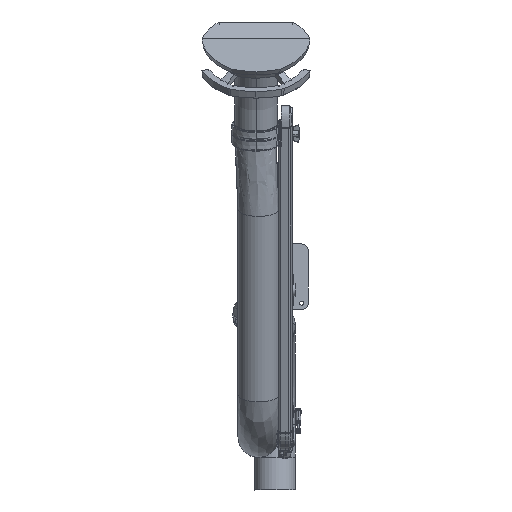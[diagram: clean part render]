
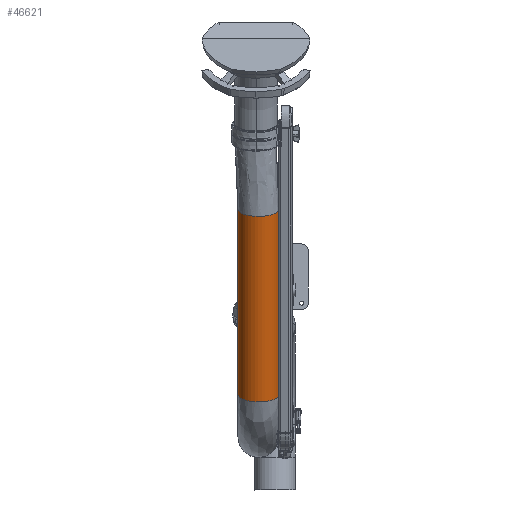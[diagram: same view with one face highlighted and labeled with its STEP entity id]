
A CAD part, front view. The second image highlights one B-rep face of the part: STEP entity #46621.
In plain terms, the highlighted free-form (B-spline) face has degree [3, 3] with [7, 6] control points.
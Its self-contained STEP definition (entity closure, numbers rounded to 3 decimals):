
#44864=CARTESIAN_POINT('',(-112.5,0.,-275.));
#44865=CARTESIAN_POINT('',(-112.5,0.,-341.667));
#44866=CARTESIAN_POINT('',(-112.5,0.,-475.));
#44867=CARTESIAN_POINT('',(-112.5,0.,-675.));
#44868=CARTESIAN_POINT('',(-112.5,0.,-808.333));
#44869=CARTESIAN_POINT('',(-112.5,0.,-875.));
#44874=CARTESIAN_POINT('',(-50.,0.,-275.));
#44875=DIRECTION('',(0.,0.,-1.));
#44876=DIRECTION('',(1.,0.,0.));
#44877=AXIS2_PLACEMENT_3D('',#44874,#44875,#44876);
#44882=CARTESIAN_POINT('',(12.5,0.,-275.));
#44883=CARTESIAN_POINT('',(12.5,0.,-341.667));
#44884=CARTESIAN_POINT('',(12.5,0.,-475.));
#44885=CARTESIAN_POINT('',(12.5,0.,-675.));
#44886=CARTESIAN_POINT('',(12.5,0.,-808.333));
#44887=CARTESIAN_POINT('',(12.5,0.,-875.));
#44892=CARTESIAN_POINT('',(-50.,0.,-875.));
#44893=DIRECTION('',(0.,0.,-1.));
#44894=DIRECTION('',(1.,0.,0.));
#44895=AXIS2_PLACEMENT_3D('',#44892,#44893,#44894);
#46258=CARTESIAN_POINT('',(12.5,0.,-275.));
#46259=CARTESIAN_POINT('',(-112.5,0.,-275.));
#46260=VERTEX_POINT('',#46258);
#46261=VERTEX_POINT('',#46259);
#46266=CARTESIAN_POINT('',(12.5,0.,-875.));
#46267=CARTESIAN_POINT('',(-112.5,0.,-875.));
#46268=VERTEX_POINT('',#46266);
#46269=VERTEX_POINT('',#46267);
#46571=CARTESIAN_POINT('',(12.377,3.924,-263.));
#46572=CARTESIAN_POINT('',(12.377,3.924,-267.));
#46573=CARTESIAN_POINT('',(12.377,3.924,-471.));
#46574=CARTESIAN_POINT('',(12.377,3.924,-679.));
#46575=CARTESIAN_POINT('',(12.377,3.924,-883.));
#46576=CARTESIAN_POINT('',(12.377,3.924,-887.));
#46577=CARTESIAN_POINT('',(14.792,-34.462,-263.));
#46578=CARTESIAN_POINT('',(14.792,-34.462,-267.));
#46579=CARTESIAN_POINT('',(14.792,-34.462,-471.));
#46580=CARTESIAN_POINT('',(14.792,-34.462,-679.));
#46581=CARTESIAN_POINT('',(14.792,-34.462,-883.));
#46582=CARTESIAN_POINT('',(14.792,-34.462,-887.));
#46583=CARTESIAN_POINT('',(-11.538,-62.5,-263.));
#46584=CARTESIAN_POINT('',(-11.538,-62.5,-267.));
#46585=CARTESIAN_POINT('',(-11.538,-62.5,-471.));
#46586=CARTESIAN_POINT('',(-11.538,-62.5,-679.));
#46587=CARTESIAN_POINT('',(-11.538,-62.5,-883.));
#46588=CARTESIAN_POINT('',(-11.538,-62.5,-887.));
#46589=CARTESIAN_POINT('',(-50.,-62.5,-263.));
#46590=CARTESIAN_POINT('',(-50.,-62.5,-267.));
#46591=CARTESIAN_POINT('',(-50.,-62.5,-471.));
#46592=CARTESIAN_POINT('',(-50.,-62.5,-679.));
#46593=CARTESIAN_POINT('',(-50.,-62.5,-883.));
#46594=CARTESIAN_POINT('',(-50.,-62.5,-887.));
#46595=CARTESIAN_POINT('',(-88.462,-62.5,-263.));
#46596=CARTESIAN_POINT('',(-88.462,-62.5,-267.));
#46597=CARTESIAN_POINT('',(-88.462,-62.5,-471.));
#46598=CARTESIAN_POINT('',(-88.462,-62.5,-679.));
#46599=CARTESIAN_POINT('',(-88.462,-62.5,-883.));
#46600=CARTESIAN_POINT('',(-88.462,-62.5,-887.));
#46601=CARTESIAN_POINT('',(-114.792,-34.462,-263.));
#46602=CARTESIAN_POINT('',(-114.792,-34.462,-267.));
#46603=CARTESIAN_POINT('',(-114.792,-34.462,-471.));
#46604=CARTESIAN_POINT('',(-114.792,-34.462,-679.));
#46605=CARTESIAN_POINT('',(-114.792,-34.462,-883.));
#46606=CARTESIAN_POINT('',(-114.792,-34.462,-887.));
#46607=CARTESIAN_POINT('',(-112.377,3.924,-263.));
#46608=CARTESIAN_POINT('',(-112.377,3.924,-267.));
#46609=CARTESIAN_POINT('',(-112.377,3.924,-471.));
#46610=CARTESIAN_POINT('',(-112.377,3.924,-679.));
#46611=CARTESIAN_POINT('',(-112.377,3.924,-883.));
#46612=CARTESIAN_POINT('',(-112.377,3.924,-887.));
#46613=(BOUNDED_SURFACE()B_SPLINE_SURFACE(3,3,((#46571,#46572,#46573,#46574,
#46575,#46576),(#46577,#46578,#46579,#46580,#46581,#46582),(#46583,#46584,
#46585,#46586,#46587,#46588),(#46589,#46590,#46591,#46592,#46593,#46594),
(#46595,#46596,#46597,#46598,#46599,#46600),(#46601,#46602,#46603,#46604,#46605,
#46606),(#46607,#46608,#46609,#46610,#46611,#46612)),.UNSPECIFIED.,.F.,.F.,.F.)B_SPLINE_SURFACE_WITH_KNOTS((4,3,4),(4,1,1,4),(0.,1.,2.),(-0.02,0.,1.,
1.02),.UNSPECIFIED.)GEOMETRIC_REPRESENTATION_ITEM()RATIONAL_B_SPLINE_SURFACE((
(1.187,1.187,1.187,1.187,
1.187,1.187),(0.938,0.938,
0.938,0.938,0.938,0.938),(
0.938,0.938,0.938,0.938,
0.938,0.938),(1.187,1.187,
1.187,1.187,1.187,1.187),(
0.938,0.938,0.938,0.938,
0.938,0.938),(0.938,0.938,
0.938,0.938,0.938,0.938),(
1.187,1.187,1.187,1.187,
1.187,1.187)))REPRESENTATION_ITEM('')SURFACE());
#46614=ORIENTED_EDGE('',*,*,#46418,.F.);
#46615=ORIENTED_EDGE('',*,*,#46559,.T.);
#46617=ORIENTED_EDGE('',*,*,#46616,.T.);
#46618=ORIENTED_EDGE('',*,*,#46555,.F.);
#46619=EDGE_LOOP('',(#46614,#46615,#46617,#46618));
#46620=FACE_OUTER_BOUND('',#46619,.F.);
#44870=B_SPLINE_CURVE_WITH_KNOTS('',3,(#44864,#44865,#44866,#44867,#44868,
#44869),.UNSPECIFIED.,.F.,.F.,(4,1,1,4),(0.,0.333,
0.667,1.),.UNSPECIFIED.);
#44878=CIRCLE('',#44877,62.5);
#44888=B_SPLINE_CURVE_WITH_KNOTS('',3,(#44882,#44883,#44884,#44885,#44886,
#44887),.UNSPECIFIED.,.F.,.F.,(4,1,1,4),(0.,0.333,
0.667,1.),.UNSPECIFIED.);
#44896=CIRCLE('',#44895,62.5);
#46418=EDGE_CURVE('',#46260,#46261,#44878,.T.);
#46555=EDGE_CURVE('',#46261,#46269,#44870,.T.);
#46559=EDGE_CURVE('',#46260,#46268,#44888,.T.);
#46616=EDGE_CURVE('',#46268,#46269,#44896,.T.);
#46621=ADVANCED_FACE('',(#46620),#46613,.T.);
